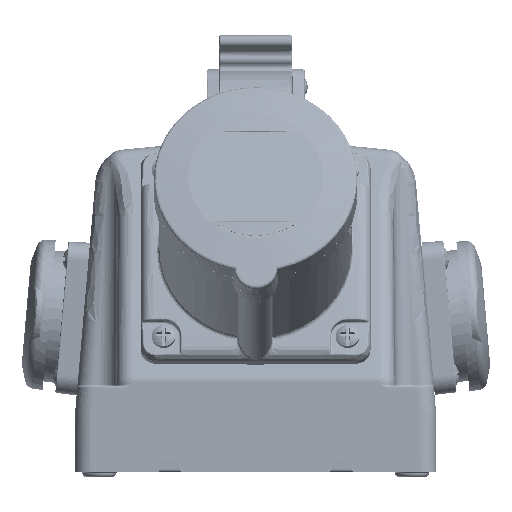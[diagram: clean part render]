
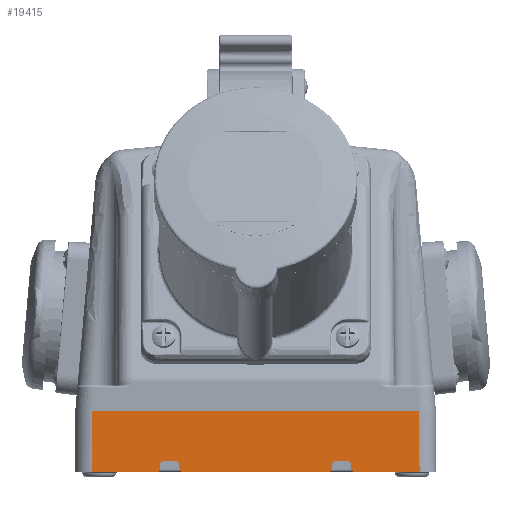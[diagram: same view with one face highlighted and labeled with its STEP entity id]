
A CAD part, front view. The second image highlights one B-rep face of the part: STEP entity #19415.
In plain terms, the highlighted planar face has unit normal (0, -1, 0.009).
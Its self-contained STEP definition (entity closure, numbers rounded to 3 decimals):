
#9598=ELLIPSE('',#116277,1.,1.);
#9599=ELLIPSE('',#116278,1.,1.);
#9600=ELLIPSE('',#116279,1.,1.);
#9601=ELLIPSE('',#116280,1.,1.);
#9602=ELLIPSE('',#116281,1.,1.);
#9603=ELLIPSE('',#116282,1.,1.);
#9604=ELLIPSE('',#116283,1.,1.);
#9605=ELLIPSE('',#116284,1.,1.);
#19415=ADVANCED_FACE('',(#27510),#22918,.T.);
#22918=PLANE('',#116285);
#27510=FACE_OUTER_BOUND('',#34145,.T.);
#34145=EDGE_LOOP('',(#70898,#70899,#70900,#70901,#70902,#70903,#70904,#70905,
#70906,#70907,#70908,#70909,#70910,#70911,#70912,#70913,#70914,#70915,#70916,
#70917));
#40765=LINE('',#264346,#47408);
#40766=LINE('',#264351,#47409);
#40767=LINE('',#264353,#47410);
#40768=LINE('',#264355,#47411);
#40769=LINE('',#264357,#47412);
#40770=LINE('',#264359,#47413);
#40771=LINE('',#264363,#47414);
#40772=LINE('',#264367,#47415);
#40773=LINE('',#264371,#47416);
#40774=LINE('',#264375,#47417);
#40775=LINE('',#264379,#47418);
#40776=LINE('',#264383,#47419);
#47408=VECTOR('',#135731,1.);
#47409=VECTOR('',#135734,1.);
#47410=VECTOR('',#135735,1.);
#47411=VECTOR('',#135736,1.);
#47412=VECTOR('',#135737,1.);
#47413=VECTOR('',#135738,1.);
#47414=VECTOR('',#135741,1.);
#47415=VECTOR('',#135744,1.);
#47416=VECTOR('',#135747,1.);
#47417=VECTOR('',#135750,1.);
#47418=VECTOR('',#135753,1.);
#47419=VECTOR('',#135756,1.);
#70898=ORIENTED_EDGE('',*,*,#100336,.T.);
#70899=ORIENTED_EDGE('',*,*,#100337,.T.);
#70900=ORIENTED_EDGE('',*,*,#100338,.F.);
#70901=ORIENTED_EDGE('',*,*,#100339,.T.);
#70902=ORIENTED_EDGE('',*,*,#100340,.T.);
#70903=ORIENTED_EDGE('',*,*,#100341,.T.);
#70904=ORIENTED_EDGE('',*,*,#100342,.F.);
#70905=ORIENTED_EDGE('',*,*,#100343,.T.);
#70906=ORIENTED_EDGE('',*,*,#100344,.T.);
#70907=ORIENTED_EDGE('',*,*,#100345,.F.);
#70908=ORIENTED_EDGE('',*,*,#100346,.F.);
#70909=ORIENTED_EDGE('',*,*,#100347,.F.);
#70910=ORIENTED_EDGE('',*,*,#100348,.F.);
#70911=ORIENTED_EDGE('',*,*,#100349,.T.);
#70912=ORIENTED_EDGE('',*,*,#100350,.F.);
#70913=ORIENTED_EDGE('',*,*,#100351,.T.);
#70914=ORIENTED_EDGE('',*,*,#100352,.F.);
#70915=ORIENTED_EDGE('',*,*,#100353,.F.);
#70916=ORIENTED_EDGE('',*,*,#100354,.F.);
#70917=ORIENTED_EDGE('',*,*,#100355,.F.);
#86796=VERTEX_POINT('',#264347);
#86797=VERTEX_POINT('',#264348);
#86798=VERTEX_POINT('',#264350);
#86799=VERTEX_POINT('',#264352);
#86800=VERTEX_POINT('',#264354);
#86801=VERTEX_POINT('',#264356);
#86802=VERTEX_POINT('',#264358);
#86803=VERTEX_POINT('',#264360);
#86804=VERTEX_POINT('',#264362);
#86805=VERTEX_POINT('',#264364);
#86806=VERTEX_POINT('',#264366);
#86807=VERTEX_POINT('',#264368);
#86808=VERTEX_POINT('',#264370);
#86809=VERTEX_POINT('',#264372);
#86810=VERTEX_POINT('',#264374);
#86811=VERTEX_POINT('',#264376);
#86812=VERTEX_POINT('',#264378);
#86813=VERTEX_POINT('',#264380);
#86814=VERTEX_POINT('',#264382);
#86815=VERTEX_POINT('',#264384);
#100336=EDGE_CURVE('',#86796,#86797,#40765,.T.);
#100337=EDGE_CURVE('',#86797,#86798,#9598,.T.);
#100338=EDGE_CURVE('',#86799,#86798,#40766,.T.);
#100339=EDGE_CURVE('',#86799,#86800,#40767,.T.);
#100340=EDGE_CURVE('',#86800,#86801,#40768,.T.);
#100341=EDGE_CURVE('',#86801,#86802,#40769,.T.);
#100342=EDGE_CURVE('',#86803,#86802,#40770,.T.);
#100343=EDGE_CURVE('',#86803,#86804,#9599,.T.);
#100344=EDGE_CURVE('',#86804,#86805,#40771,.T.);
#100345=EDGE_CURVE('',#86806,#86805,#9600,.T.);
#100346=EDGE_CURVE('',#86807,#86806,#40772,.T.);
#100347=EDGE_CURVE('',#86808,#86807,#9601,.T.);
#100348=EDGE_CURVE('',#86809,#86808,#40773,.T.);
#100349=EDGE_CURVE('',#86809,#86810,#9602,.T.);
#100350=EDGE_CURVE('',#86811,#86810,#40774,.T.);
#100351=EDGE_CURVE('',#86811,#86812,#9603,.T.);
#100352=EDGE_CURVE('',#86813,#86812,#40775,.T.);
#100353=EDGE_CURVE('',#86814,#86813,#9604,.T.);
#100354=EDGE_CURVE('',#86815,#86814,#40776,.T.);
#100355=EDGE_CURVE('',#86796,#86815,#9605,.T.);
#116277=AXIS2_PLACEMENT_3D('',#264349,#135732,#135733);
#116278=AXIS2_PLACEMENT_3D('',#264361,#135739,#135740);
#116279=AXIS2_PLACEMENT_3D('',#264365,#135742,#135743);
#116280=AXIS2_PLACEMENT_3D('',#264369,#135745,#135746);
#116281=AXIS2_PLACEMENT_3D('',#264373,#135748,#135749);
#116282=AXIS2_PLACEMENT_3D('',#264377,#135751,#135752);
#116283=AXIS2_PLACEMENT_3D('',#264381,#135754,#135755);
#116284=AXIS2_PLACEMENT_3D('',#264385,#135757,#135758);
#116285=AXIS2_PLACEMENT_3D('',#264386,#135759,#135760);
#135731=DIRECTION('',(0.087,-0.009,-0.996));
#135732=DIRECTION('',(0.,-1.,0.009));
#135733=DIRECTION('',(0.,-0.009,-1.));
#135734=DIRECTION('',(-1.,0.,0.));
#135735=DIRECTION('',(-0.009,0.009,1.));
#135736=DIRECTION('',(-1.,0.,0.));
#135737=DIRECTION('',(-0.009,-0.009,-1.));
#135738=DIRECTION('',(-1.,0.,0.));
#135739=DIRECTION('',(0.,-1.,0.009));
#135740=DIRECTION('',(0.,0.009,1.));
#135741=DIRECTION('',(0.087,0.009,0.996));
#135742=DIRECTION('',(0.,-1.,0.009));
#135743=DIRECTION('',(0.,0.009,1.));
#135744=DIRECTION('',(-1.,0.,0.));
#135745=DIRECTION('',(0.,-1.,0.009));
#135746=DIRECTION('',(0.,0.009,1.));
#135747=DIRECTION('',(-0.087,0.009,0.996));
#135748=DIRECTION('',(0.,-1.,0.009));
#135749=DIRECTION('',(0.,0.009,1.));
#135750=DIRECTION('',(-1.,0.,0.));
#135751=DIRECTION('',(0.,-1.,0.009));
#135752=DIRECTION('',(0.,-0.009,-1.));
#135753=DIRECTION('',(-0.087,-0.009,-0.996));
#135754=DIRECTION('',(0.,-1.,0.009));
#135755=DIRECTION('',(0.,0.009,1.));
#135756=DIRECTION('',(-1.,0.,0.));
#135757=DIRECTION('',(0.,-1.,0.009));
#135758=DIRECTION('',(0.,0.009,1.));
#135759=DIRECTION('',(0.,-1.,0.009));
#135760=DIRECTION('',(0.,-0.009,-1.));
#264346=CARTESIAN_POINT('',(31.517,-85.021,-2.404));
#264347=CARTESIAN_POINT('',(31.08,-84.977,2.587));
#264348=CARTESIAN_POINT('',(31.226,-84.992,0.913));
#264349=CARTESIAN_POINT('',(32.223,-84.991,1.));
#264350=CARTESIAN_POINT('',(32.223,-85.,0.));
#264351=CARTESIAN_POINT('',(59.,-85.,0.));
#264352=CARTESIAN_POINT('',(53.5,-85.,0.));
#264353=CARTESIAN_POINT('',(53.501,-85.,-0.048));
#264354=CARTESIAN_POINT('',(53.326,-84.825,20.));
#264355=CARTESIAN_POINT('',(0.,-84.825,20.));
#264356=CARTESIAN_POINT('',(-53.326,-84.825,20.));
#264357=CARTESIAN_POINT('',(-53.492,-84.991,0.982));
#264358=CARTESIAN_POINT('',(-53.5,-85.,0.));
#264359=CARTESIAN_POINT('',(59.,-85.,0.));
#264360=CARTESIAN_POINT('',(-32.223,-85.,0.));
#264361=CARTESIAN_POINT('',(-32.223,-84.991,1.));
#264362=CARTESIAN_POINT('',(-31.226,-84.992,0.913));
#264363=CARTESIAN_POINT('',(-30.62,-84.932,7.84));
#264364=CARTESIAN_POINT('',(-31.08,-84.977,2.587));
#264365=CARTESIAN_POINT('',(-30.084,-84.978,2.5));
#264366=CARTESIAN_POINT('',(-30.084,-84.969,3.5));
#264367=CARTESIAN_POINT('',(59.,-84.969,3.5));
#264368=CARTESIAN_POINT('',(-25.916,-84.969,3.5));
#264369=CARTESIAN_POINT('',(-25.916,-84.978,2.5));
#264370=CARTESIAN_POINT('',(-24.92,-84.977,2.587));
#264371=CARTESIAN_POINT('',(-24.058,-85.063,-7.266));
#264372=CARTESIAN_POINT('',(-24.774,-84.992,0.913));
#264373=CARTESIAN_POINT('',(-23.777,-84.991,1.));
#264374=CARTESIAN_POINT('',(-23.777,-85.,0.));
#264375=CARTESIAN_POINT('',(59.,-85.,0.));
#264376=CARTESIAN_POINT('',(23.777,-85.,0.));
#264377=CARTESIAN_POINT('',(23.777,-84.991,1.));
#264378=CARTESIAN_POINT('',(24.774,-84.992,0.913));
#264379=CARTESIAN_POINT('',(24.954,-84.974,2.978));
#264380=CARTESIAN_POINT('',(24.92,-84.977,2.587));
#264381=CARTESIAN_POINT('',(25.916,-84.978,2.5));
#264382=CARTESIAN_POINT('',(25.916,-84.969,3.5));
#264383=CARTESIAN_POINT('',(59.,-84.969,3.5));
#264384=CARTESIAN_POINT('',(30.084,-84.969,3.5));
#264385=CARTESIAN_POINT('',(30.084,-84.978,2.5));
#264386=CARTESIAN_POINT('',(59.,-85.,0.));
